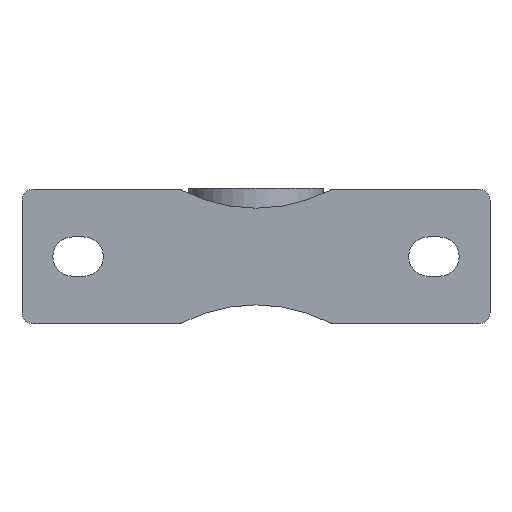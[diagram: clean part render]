
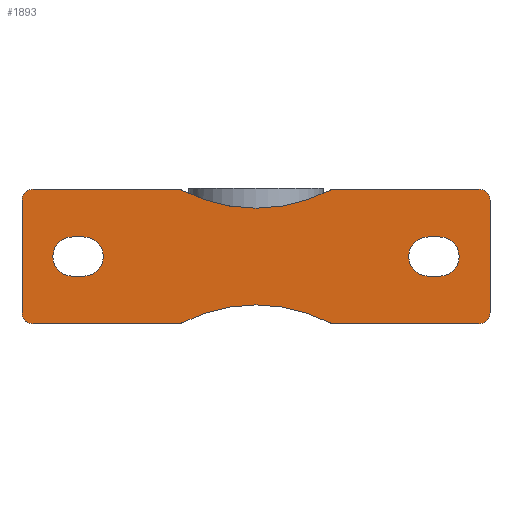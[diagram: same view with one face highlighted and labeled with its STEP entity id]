
A CAD part, front view. The second image highlights one B-rep face of the part: STEP entity #1893.
In plain terms, the highlighted planar face has unit normal (0, -1, 0).
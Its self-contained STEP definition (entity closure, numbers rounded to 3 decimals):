
#84=FACE_BOUND('',#267,.T.);
#85=FACE_BOUND('',#268,.T.);
#104=PLANE('',#2092);
#159=FACE_OUTER_BOUND('',#266,.T.);
#266=EDGE_LOOP('',(#1233,#1234,#1235,#1236,#1237,#1238,#1239,#1240,#1241,
#1242,#1243,#1244));
#267=EDGE_LOOP('',(#1245,#1246,#1247,#1248));
#268=EDGE_LOOP('',(#1249,#1250,#1251,#1252));
#427=LINE('',#2893,#549);
#428=LINE('',#2897,#550);
#429=LINE('',#2901,#551);
#430=LINE('',#2905,#552);
#431=LINE('',#2909,#553);
#432=LINE('',#2912,#554);
#433=LINE('',#2917,#555);
#434=LINE('',#2920,#556);
#435=LINE('',#2925,#557);
#436=LINE('',#2928,#558);
#549=VECTOR('',#2313,10.);
#550=VECTOR('',#2316,10.);
#551=VECTOR('',#2319,10.);
#552=VECTOR('',#2322,10.);
#553=VECTOR('',#2325,10.);
#554=VECTOR('',#2328,10.);
#555=VECTOR('',#2331,10.);
#556=VECTOR('',#2334,10.);
#557=VECTOR('',#2337,10.);
#558=VECTOR('',#2340,10.);
#672=CIRCLE('',#2093,4.);
#673=CIRCLE('',#2094,58.);
#674=CIRCLE('',#2095,4.);
#675=CIRCLE('',#2096,4.);
#676=CIRCLE('',#2097,58.);
#677=CIRCLE('',#2098,4.);
#678=CIRCLE('',#2099,7.);
#679=CIRCLE('',#2100,7.);
#680=CIRCLE('',#2101,7.);
#681=CIRCLE('',#2102,7.);
#766=VERTEX_POINT('',#2889);
#767=VERTEX_POINT('',#2890);
#768=VERTEX_POINT('',#2892);
#769=VERTEX_POINT('',#2894);
#770=VERTEX_POINT('',#2896);
#771=VERTEX_POINT('',#2898);
#772=VERTEX_POINT('',#2900);
#773=VERTEX_POINT('',#2902);
#774=VERTEX_POINT('',#2904);
#775=VERTEX_POINT('',#2906);
#776=VERTEX_POINT('',#2908);
#777=VERTEX_POINT('',#2910);
#778=VERTEX_POINT('',#2913);
#779=VERTEX_POINT('',#2914);
#780=VERTEX_POINT('',#2916);
#781=VERTEX_POINT('',#2918);
#782=VERTEX_POINT('',#2921);
#783=VERTEX_POINT('',#2922);
#784=VERTEX_POINT('',#2924);
#785=VERTEX_POINT('',#2926);
#954=EDGE_CURVE('',#766,#767,#672,.T.);
#955=EDGE_CURVE('',#766,#768,#427,.T.);
#956=EDGE_CURVE('',#768,#769,#673,.T.);
#957=EDGE_CURVE('',#769,#770,#428,.T.);
#958=EDGE_CURVE('',#771,#770,#674,.T.);
#959=EDGE_CURVE('',#771,#772,#429,.T.);
#960=EDGE_CURVE('',#773,#772,#675,.T.);
#961=EDGE_CURVE('',#774,#773,#430,.T.);
#962=EDGE_CURVE('',#774,#775,#676,.T.);
#963=EDGE_CURVE('',#776,#775,#431,.T.);
#964=EDGE_CURVE('',#777,#776,#677,.T.);
#965=EDGE_CURVE('',#777,#767,#432,.T.);
#966=EDGE_CURVE('',#778,#779,#678,.T.);
#967=EDGE_CURVE('',#779,#780,#433,.T.);
#968=EDGE_CURVE('',#780,#781,#679,.T.);
#969=EDGE_CURVE('',#781,#778,#434,.T.);
#970=EDGE_CURVE('',#782,#783,#680,.T.);
#971=EDGE_CURVE('',#783,#784,#435,.T.);
#972=EDGE_CURVE('',#784,#785,#681,.T.);
#973=EDGE_CURVE('',#785,#782,#436,.T.);
#1233=ORIENTED_EDGE('',*,*,#954,.F.);
#1234=ORIENTED_EDGE('',*,*,#955,.T.);
#1235=ORIENTED_EDGE('',*,*,#956,.T.);
#1236=ORIENTED_EDGE('',*,*,#957,.T.);
#1237=ORIENTED_EDGE('',*,*,#958,.F.);
#1238=ORIENTED_EDGE('',*,*,#959,.T.);
#1239=ORIENTED_EDGE('',*,*,#960,.F.);
#1240=ORIENTED_EDGE('',*,*,#961,.F.);
#1241=ORIENTED_EDGE('',*,*,#962,.T.);
#1242=ORIENTED_EDGE('',*,*,#963,.F.);
#1243=ORIENTED_EDGE('',*,*,#964,.F.);
#1244=ORIENTED_EDGE('',*,*,#965,.T.);
#1245=ORIENTED_EDGE('',*,*,#966,.T.);
#1246=ORIENTED_EDGE('',*,*,#967,.T.);
#1247=ORIENTED_EDGE('',*,*,#968,.T.);
#1248=ORIENTED_EDGE('',*,*,#969,.T.);
#1249=ORIENTED_EDGE('',*,*,#970,.T.);
#1250=ORIENTED_EDGE('',*,*,#971,.T.);
#1251=ORIENTED_EDGE('',*,*,#972,.T.);
#1252=ORIENTED_EDGE('',*,*,#973,.T.);
#1893=ADVANCED_FACE('',(#159,#84,#85),#104,.F.);
#2092=AXIS2_PLACEMENT_3D('',#2888,#2309,#2310);
#2093=AXIS2_PLACEMENT_3D('',#2891,#2311,#2312);
#2094=AXIS2_PLACEMENT_3D('',#2895,#2314,#2315);
#2095=AXIS2_PLACEMENT_3D('',#2899,#2317,#2318);
#2096=AXIS2_PLACEMENT_3D('',#2903,#2320,#2321);
#2097=AXIS2_PLACEMENT_3D('',#2907,#2323,#2324);
#2098=AXIS2_PLACEMENT_3D('',#2911,#2326,#2327);
#2099=AXIS2_PLACEMENT_3D('',#2915,#2329,#2330);
#2100=AXIS2_PLACEMENT_3D('',#2919,#2332,#2333);
#2101=AXIS2_PLACEMENT_3D('',#2923,#2335,#2336);
#2102=AXIS2_PLACEMENT_3D('',#2927,#2338,#2339);
#2309=DIRECTION('center_axis',(0.,1.,0.));
#2310=DIRECTION('ref_axis',(0.,0.,1.));
#2311=DIRECTION('center_axis',(0.,1.,0.));
#2312=DIRECTION('ref_axis',(-0.707,0.,-0.707));
#2313=DIRECTION('',(1.,0.,0.));
#2314=DIRECTION('center_axis',(0.,1.,0.));
#2315=DIRECTION('ref_axis',(1.,0.,0.));
#2316=DIRECTION('',(1.,0.,0.));
#2317=DIRECTION('center_axis',(0.,1.,0.));
#2318=DIRECTION('ref_axis',(0.707,0.,-0.707));
#2319=DIRECTION('',(0.,0.,1.));
#2320=DIRECTION('center_axis',(0.,1.,0.));
#2321=DIRECTION('ref_axis',(0.707,0.,0.707));
#2322=DIRECTION('',(1.,0.,0.));
#2323=DIRECTION('center_axis',(0.,1.,0.));
#2324=DIRECTION('ref_axis',(1.,0.,0.));
#2325=DIRECTION('',(1.,0.,0.));
#2326=DIRECTION('center_axis',(0.,1.,0.));
#2327=DIRECTION('ref_axis',(-0.707,0.,0.707));
#2328=DIRECTION('',(0.,0.,-1.));
#2329=DIRECTION('center_axis',(0.,1.,0.));
#2330=DIRECTION('ref_axis',(0.,0.,1.));
#2331=DIRECTION('',(1.,0.,0.));
#2332=DIRECTION('center_axis',(0.,1.,0.));
#2333=DIRECTION('ref_axis',(0.,0.,-1.));
#2334=DIRECTION('',(-1.,0.,0.));
#2335=DIRECTION('center_axis',(0.,1.,0.));
#2336=DIRECTION('ref_axis',(0.,0.,1.));
#2337=DIRECTION('',(-1.,0.,0.));
#2338=DIRECTION('center_axis',(0.,1.,0.));
#2339=DIRECTION('ref_axis',(0.,0.,-1.));
#2340=DIRECTION('',(1.,0.,0.));
#2888=CARTESIAN_POINT('Origin',(-46.4,-47.6,0.));
#2889=CARTESIAN_POINT('',(-79.5,-47.6,-24.));
#2890=CARTESIAN_POINT('',(-83.5,-47.6,-20.));
#2891=CARTESIAN_POINT('Origin',(-79.5,-47.6,-20.));
#2892=CARTESIAN_POINT('',(-27.156,-47.6,-24.));
#2893=CARTESIAN_POINT('',(-83.5,-47.6,-24.));
#2894=CARTESIAN_POINT('',(27.156,-47.6,-24.));
#2895=CARTESIAN_POINT('Origin',(0.,-47.6,-75.25));
#2896=CARTESIAN_POINT('',(79.5,-47.6,-24.));
#2897=CARTESIAN_POINT('',(-83.5,-47.6,-24.));
#2898=CARTESIAN_POINT('',(83.5,-47.6,-20.));
#2899=CARTESIAN_POINT('Origin',(79.5,-47.6,-20.));
#2900=CARTESIAN_POINT('',(83.5,-47.6,20.));
#2901=CARTESIAN_POINT('',(83.5,-47.6,0.));
#2902=CARTESIAN_POINT('',(79.5,-47.6,24.));
#2903=CARTESIAN_POINT('Origin',(79.5,-47.6,20.));
#2904=CARTESIAN_POINT('',(27.156,-47.6,24.));
#2905=CARTESIAN_POINT('',(-10.,-47.6,24.));
#2906=CARTESIAN_POINT('',(-27.156,-47.6,24.));
#2907=CARTESIAN_POINT('Origin',(0.,-47.6,75.25));
#2908=CARTESIAN_POINT('',(-79.5,-47.6,24.));
#2909=CARTESIAN_POINT('',(-10.,-47.6,24.));
#2910=CARTESIAN_POINT('',(-83.5,-47.6,20.));
#2911=CARTESIAN_POINT('Origin',(-79.5,-47.6,20.));
#2912=CARTESIAN_POINT('',(-83.5,-47.6,0.));
#2913=CARTESIAN_POINT('',(61.5,-47.6,-7.));
#2914=CARTESIAN_POINT('',(61.5,-47.6,7.));
#2915=CARTESIAN_POINT('Origin',(61.5,-47.6,0.));
#2916=CARTESIAN_POINT('',(65.5,-47.6,7.));
#2917=CARTESIAN_POINT('',(9.55,-47.6,7.));
#2918=CARTESIAN_POINT('',(65.5,-47.6,-7.));
#2919=CARTESIAN_POINT('Origin',(65.5,-47.6,0.));
#2920=CARTESIAN_POINT('',(7.55,-47.6,-7.));
#2921=CARTESIAN_POINT('',(-61.5,-47.6,7.));
#2922=CARTESIAN_POINT('',(-61.5,-47.6,-7.));
#2923=CARTESIAN_POINT('Origin',(-61.5,-47.6,0.));
#2924=CARTESIAN_POINT('',(-65.5,-47.6,-7.));
#2925=CARTESIAN_POINT('',(-55.95,-47.6,-7.));
#2926=CARTESIAN_POINT('',(-65.5,-47.6,7.));
#2927=CARTESIAN_POINT('Origin',(-65.5,-47.6,0.));
#2928=CARTESIAN_POINT('',(-53.95,-47.6,7.));
